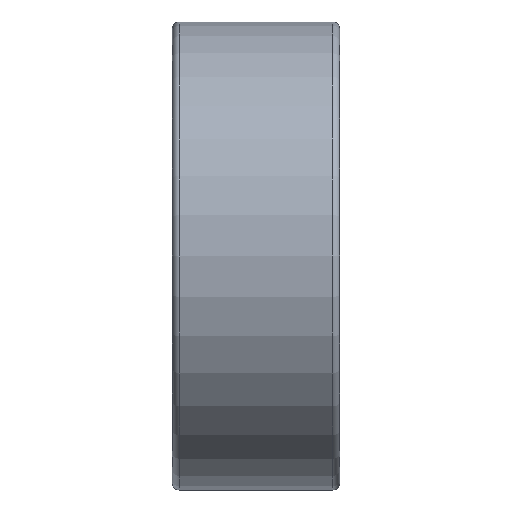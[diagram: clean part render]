
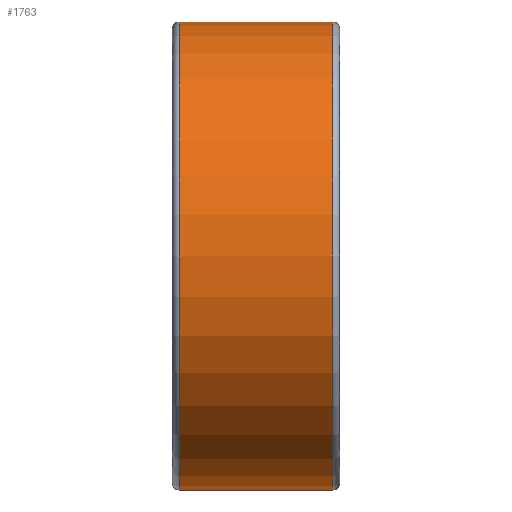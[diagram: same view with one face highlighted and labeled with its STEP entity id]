
A CAD part, front view. The second image highlights one B-rep face of the part: STEP entity #1763.
In plain terms, the highlighted cylindrical face has radius 7 mm (diameter 14 mm), a partial arc.
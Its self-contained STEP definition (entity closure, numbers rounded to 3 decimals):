
#674=DIRECTION('',(-1.,0.,0.));
#675=VECTOR('',#674,4.6);
#676=CARTESIAN_POINT('',(2.3,0.,7.));
#677=LINE('',#676,#675);
#713=CARTESIAN_POINT('',(2.3,0.,0.));
#714=DIRECTION('',(-1.,0.,0.));
#715=DIRECTION('',(0.,0.,-1.));
#716=AXIS2_PLACEMENT_3D('',#713,#714,#715);
#718=DIRECTION('',(-1.,0.,0.));
#719=VECTOR('',#718,4.6);
#720=CARTESIAN_POINT('',(2.3,0.,-7.));
#721=LINE('',#720,#719);
#727=CARTESIAN_POINT('',(-2.3,0.,0.));
#728=DIRECTION('',(1.,0.,0.));
#729=DIRECTION('',(0.,0.,1.));
#730=AXIS2_PLACEMENT_3D('',#727,#728,#729);
#860=CARTESIAN_POINT('',(2.3,0.,7.));
#861=VERTEX_POINT('',#860);
#862=CARTESIAN_POINT('',(2.3,0.,-7.));
#863=VERTEX_POINT('',#862);
#864=CARTESIAN_POINT('',(-2.3,0.,-7.));
#865=VERTEX_POINT('',#864);
#866=CARTESIAN_POINT('',(-2.3,0.,7.));
#867=VERTEX_POINT('',#866);
#1751=CARTESIAN_POINT('',(0.,0.,0.));
#1752=DIRECTION('',(-1.,0.,0.));
#1753=DIRECTION('',(0.,0.,1.));
#1754=AXIS2_PLACEMENT_3D('',#1751,#1752,#1753);
#1755=CYLINDRICAL_SURFACE('',#1754,7.);
#1756=ORIENTED_EDGE('',*,*,#1701,.T.);
#1758=ORIENTED_EDGE('',*,*,#1757,.F.);
#1759=ORIENTED_EDGE('',*,*,#1698,.F.);
#1760=ORIENTED_EDGE('',*,*,#1744,.F.);
#1761=EDGE_LOOP('',(#1756,#1758,#1759,#1760));
#1762=FACE_OUTER_BOUND('',#1761,.F.);
#1763=ADVANCED_FACE('',(#1762),#1755,.T.);
#717=CIRCLE('',#716,7.);
#731=CIRCLE('',#730,7.);
#1698=EDGE_CURVE('',#861,#867,#677,.T.);
#1701=EDGE_CURVE('',#863,#865,#721,.T.);
#1744=EDGE_CURVE('',#863,#861,#717,.T.);
#1757=EDGE_CURVE('',#867,#865,#731,.T.);
